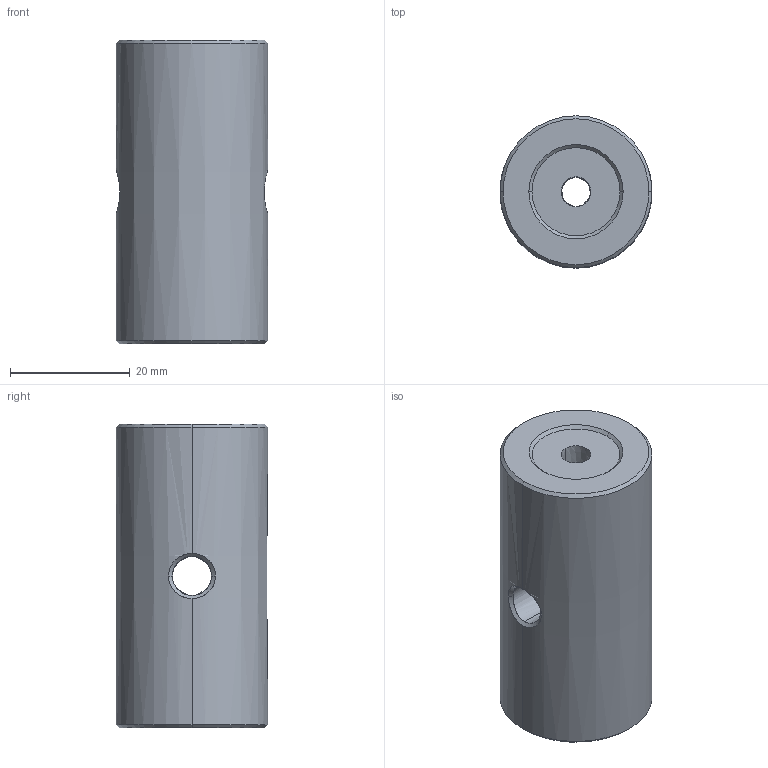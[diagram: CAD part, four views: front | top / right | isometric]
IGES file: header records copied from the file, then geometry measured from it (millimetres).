
Start section: 3D InterOp IGES (Version 21 0 3), Spatial Corp. Copyright (c) 1999-2007.
Global section: file name: export0.igs; native system: Spatial Corp.; preprocessor: 3D InterOp ACIS/IGES; author: Noname; organization: Noname; date: 20140203.222029; units: centimetre
Bounding box: 25.4 x 25.4 x 50.8 mm (x, y, z)
Surface area: 6079.4 mm2 (no closed solid volume)
Topology: 0 solids, 0 shells, 24 faces, 138 edges, 138 vertices
Faces by surface type: revolution 16, bspline 4, extrusion 4
